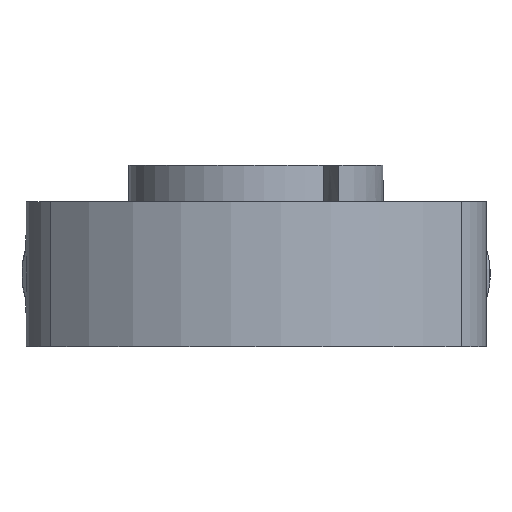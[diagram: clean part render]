
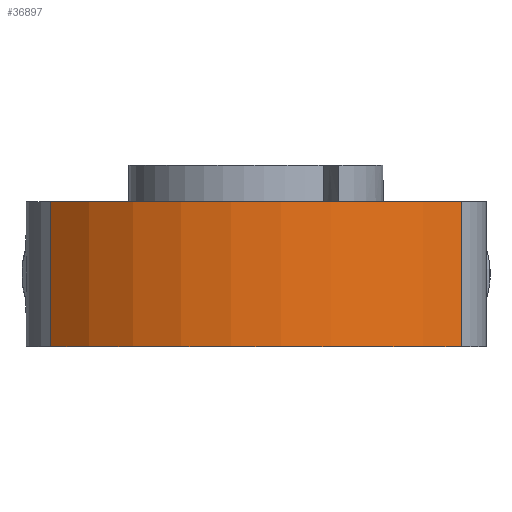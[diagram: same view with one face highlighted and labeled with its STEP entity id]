
A CAD part, front view. The second image highlights one B-rep face of the part: STEP entity #36897.
In plain terms, the highlighted cylindrical face has radius 16 mm (diameter 32 mm), a partial arc.
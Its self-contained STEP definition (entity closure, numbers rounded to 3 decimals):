
#2087 = CARTESIAN_POINT ( 'NONE',  ( 0., 0., -4. ) ) ;
#3360 = DIRECTION ( 'NONE',  ( 0., 0., -1. ) ) ;
#4895 = CIRCLE ( 'NONE', #17719, 16. ) ;
#5698 = EDGE_CURVE ( 'NONE', #28805, #44249, #10404, .T. ) ;
#7233 = CARTESIAN_POINT ( 'NONE',  ( -11.314, -11.314, 4. ) ) ;
#10404 = CIRCLE ( 'NONE', #41159, 16. ) ;
#10639 = DIRECTION ( 'NONE',  ( 0., 0., -1. ) ) ;
#11682 = EDGE_CURVE ( 'NONE', #39618, #28805, #33879, .T. ) ;
#11988 = CARTESIAN_POINT ( 'NONE',  ( -11.314, -11.314, -4. ) ) ;
#12889 = EDGE_CURVE ( 'NONE', #17688, #44249, #33830, .T. ) ;
#15063 = EDGE_CURVE ( 'NONE', #17688, #39618, #4895, .T. ) ;
#16122 = FACE_OUTER_BOUND ( 'NONE', #45729, .T. ) ;
#16555 = CARTESIAN_POINT ( 'NONE',  ( -11.314, -11.314, 4. ) ) ;
#17523 = ORIENTED_EDGE ( 'NONE', *, *, #11682, .T. ) ;
#17688 = VERTEX_POINT ( 'NONE', #51127 ) ;
#17719 = AXIS2_PLACEMENT_3D ( 'NONE', #52328, #10639, #52154 ) ;
#20613 = AXIS2_PLACEMENT_3D ( 'NONE', #38265, #46502, #38091 ) ;
#28805 = VERTEX_POINT ( 'NONE', #11988 ) ;
#31741 = DIRECTION ( 'NONE',  ( 0., 0., 1. ) ) ;
#33830 = LINE ( 'NONE', #38407, #52797 ) ;
#33879 = LINE ( 'NONE', #7233, #47621 ) ;
#35576 = DIRECTION ( 'NONE',  ( -1., 0., 0. ) ) ;
#36237 = ORIENTED_EDGE ( 'NONE', *, *, #5698, .T. ) ;
#36897 = ADVANCED_FACE ( 'NONE', ( #16122 ), #42938, .T. ) ;
#38091 = DIRECTION ( 'NONE',  ( -1., 0., 0. ) ) ;
#38265 = CARTESIAN_POINT ( 'NONE',  ( 0., 0., 4. ) ) ;
#38407 = CARTESIAN_POINT ( 'NONE',  ( 11.314, -11.314, -4. ) ) ;
#39618 = VERTEX_POINT ( 'NONE', #16555 ) ;
#41159 = AXIS2_PLACEMENT_3D ( 'NONE', #2087, #31741, #35576 ) ;
#42801 = ORIENTED_EDGE ( 'NONE', *, *, #15063, .T. ) ;
#42938 = CYLINDRICAL_SURFACE ( 'NONE', #20613, 16. ) ;
#42965 = CARTESIAN_POINT ( 'NONE',  ( 11.314, -11.314, -4. ) ) ;
#44249 = VERTEX_POINT ( 'NONE', #42965 ) ;
#45729 = EDGE_LOOP ( 'NONE', ( #42801, #17523, #36237, #53049 ) ) ;
#46502 = DIRECTION ( 'NONE',  ( 0., 0., -1. ) ) ;
#47621 = VECTOR ( 'NONE', #3360, 1000. ) ;
#51127 = CARTESIAN_POINT ( 'NONE',  ( 11.314, -11.314, 4. ) ) ;
#51382 = DIRECTION ( 'NONE',  ( 0., 0., -1. ) ) ;
#52154 = DIRECTION ( 'NONE',  ( -1., 0., 0. ) ) ;
#52328 = CARTESIAN_POINT ( 'NONE',  ( 0., 0., 4. ) ) ;
#52797 = VECTOR ( 'NONE', #51382, 1000. ) ;
#53049 = ORIENTED_EDGE ( 'NONE', *, *, #12889, .F. ) ;
